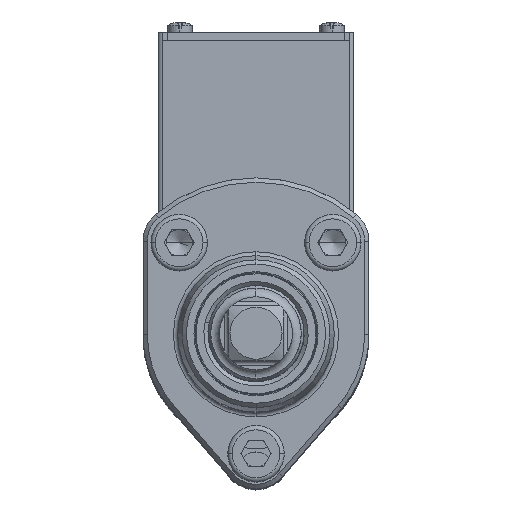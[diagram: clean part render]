
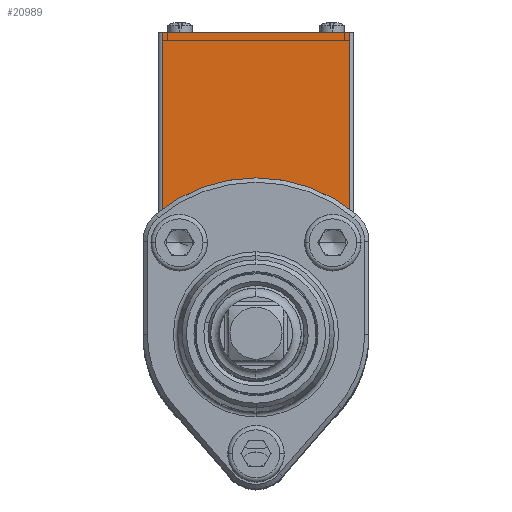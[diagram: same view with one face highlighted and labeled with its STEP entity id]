
A CAD part, top view. The second image highlights one B-rep face of the part: STEP entity #20989.
In plain terms, the highlighted planar face has unit normal (0, 0, 1).
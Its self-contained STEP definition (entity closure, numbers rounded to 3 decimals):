
#9 = CARTESIAN_POINT ( 'NONE',  ( -21.5, 69.925, -224. ) ) ;
#17 = CARTESIAN_POINT ( 'NONE',  ( -7., 32.5, -224. ) ) ;
#125 = EDGE_CURVE ( 'NONE', #10570, #17312, #18597, .T. ) ;
#167 = EDGE_CURVE ( 'NONE', #10570, #15472, #10169, .T. ) ;
#421 = DIRECTION ( 'NONE',  ( 1., 0., 0. ) ) ;
#559 = CARTESIAN_POINT ( 'NONE',  ( -5.1, 29.5, -224. ) ) ;
#592 = VERTEX_POINT ( 'NONE', #8532 ) ;
#607 = CARTESIAN_POINT ( 'NONE',  ( -5.1, 28.117, -224. ) ) ;
#619 = AXIS2_PLACEMENT_3D ( 'NONE', #11779, #17032, #8211 ) ;
#721 = EDGE_CURVE ( 'NONE', #18760, #15711, #5756, .T. ) ;
#1190 = ORIENTED_EDGE ( 'NONE', *, *, #721, .F. ) ;
#1233 = DIRECTION ( 'NONE',  ( 1., 0., 0. ) ) ;
#1632 = VERTEX_POINT ( 'NONE', #4447 ) ;
#1818 = AXIS2_PLACEMENT_3D ( 'NONE', #3451, #13768, #17451 ) ;
#2131 = EDGE_CURVE ( 'NONE', #20754, #11306, #5649, .T. ) ;
#2314 = DIRECTION ( 'NONE',  ( 0., 0., 1. ) ) ;
#2705 = CIRCLE ( 'NONE', #21369, 5.1 ) ;
#2773 = AXIS2_PLACEMENT_3D ( 'NONE', #7411, #19334, #10834 ) ;
#2848 = EDGE_CURVE ( 'NONE', #592, #1632, #16123, .T. ) ;
#2895 = CARTESIAN_POINT ( 'NONE',  ( 5.1, 24.5, -224. ) ) ;
#3080 = CARTESIAN_POINT ( 'NONE',  ( 21.5, 69.925, -224. ) ) ;
#3222 = ORIENTED_EDGE ( 'NONE', *, *, #18823, .F. ) ;
#3451 = CARTESIAN_POINT ( 'NONE',  ( 7., 32.5, -224. ) ) ;
#3537 = CARTESIAN_POINT ( 'NONE',  ( -6.61, 26.178, -224. ) ) ;
#3779 = AXIS2_PLACEMENT_3D ( 'NONE', #9194, #2314, #19481 ) ;
#3906 = DIRECTION ( 'NONE',  ( 0., -1., 0. ) ) ;
#4447 = CARTESIAN_POINT ( 'NONE',  ( -5.3, 32.5, -224. ) ) ;
#4769 = PLANE ( 'NONE',  #619 ) ;
#5175 = ORIENTED_EDGE ( 'NONE', *, *, #21923, .F. ) ;
#5286 = DIRECTION ( 'NONE',  ( 0., 0., 1. ) ) ;
#5288 = CARTESIAN_POINT ( 'NONE',  ( -7.1, 28.117, -224. ) ) ;
#5324 = ORIENTED_EDGE ( 'NONE', *, *, #13612, .T. ) ;
#5649 = LINE ( 'NONE', #10590, #19371 ) ;
#5756 = LINE ( 'NONE', #19615, #11250 ) ;
#5986 = DIRECTION ( 'NONE',  ( 0., 1., 0. ) ) ;
#6252 = AXIS2_PLACEMENT_3D ( 'NONE', #15784, #7087, #10515 ) ;
#6554 = CIRCLE ( 'NONE', #1818, 1.7 ) ;
#6680 = CARTESIAN_POINT ( 'NONE',  ( 7.1, 28.117, -224. ) ) ;
#7087 = DIRECTION ( 'NONE',  ( 0., 0., 1. ) ) ;
#7411 = CARTESIAN_POINT ( 'NONE',  ( 0., 0., -224. ) ) ;
#7542 = CIRCLE ( 'NONE', #2773, 27. ) ;
#7776 = CARTESIAN_POINT ( 'NONE',  ( -21.5, 16.332, -224. ) ) ;
#7976 = VECTOR ( 'NONE', #5986, 1000. ) ;
#8091 = CARTESIAN_POINT ( 'NONE',  ( 0., 29.5, -224. ) ) ;
#8211 = DIRECTION ( 'NONE',  ( -1., 0., 0. ) ) ;
#8532 = CARTESIAN_POINT ( 'NONE',  ( -8.7, 32.5, -224. ) ) ;
#8795 = ORIENTED_EDGE ( 'NONE', *, *, #167, .T. ) ;
#9194 = CARTESIAN_POINT ( 'NONE',  ( 7., 32.5, -224. ) ) ;
#9350 = EDGE_CURVE ( 'NONE', #1632, #592, #12531, .T. ) ;
#9538 = ORIENTED_EDGE ( 'NONE', *, *, #9350, .F. ) ;
#9631 = EDGE_LOOP ( 'NONE', ( #3222, #15595 ) ) ;
#9688 = ORIENTED_EDGE ( 'NONE', *, *, #2848, .F. ) ;
#10038 = FACE_BOUND ( 'NONE', #18904, .T. ) ;
#10169 = CIRCLE ( 'NONE', #13839, 2. ) ;
#10274 = ORIENTED_EDGE ( 'NONE', *, *, #2131, .F. ) ;
#10442 = ORIENTED_EDGE ( 'NONE', *, *, #20143, .F. ) ;
#10515 = DIRECTION ( 'NONE',  ( 1., 0., 0. ) ) ;
#10570 = VERTEX_POINT ( 'NONE', #15447 ) ;
#10590 = CARTESIAN_POINT ( 'NONE',  ( -22.5, 69.925, -224. ) ) ;
#10649 = LINE ( 'NONE', #17324, #17920 ) ;
#10652 = EDGE_CURVE ( 'NONE', #17312, #18760, #2705, .T. ) ;
#10659 = AXIS2_PLACEMENT_3D ( 'NONE', #17, #5286, #421 ) ;
#10834 = DIRECTION ( 'NONE',  ( 1., 0., 0. ) ) ;
#10984 = CARTESIAN_POINT ( 'NONE',  ( 6.61, 26.178, -224. ) ) ;
#11250 = VECTOR ( 'NONE', #16071, 1000. ) ;
#11306 = VERTEX_POINT ( 'NONE', #3080 ) ;
#11465 = CIRCLE ( 'NONE', #3779, 1.7 ) ;
#11779 = CARTESIAN_POINT ( 'NONE',  ( -22.5, 69.925, -224. ) ) ;
#11956 = DIRECTION ( 'NONE',  ( -1., 0., 0. ) ) ;
#12079 = DIRECTION ( 'NONE',  ( -1., 0., 0. ) ) ;
#12200 = ORIENTED_EDGE ( 'NONE', *, *, #125, .F. ) ;
#12255 = EDGE_LOOP ( 'NONE', ( #10274, #16574, #10442, #22366, #1190, #14198, #12200, #8795, #5175, #5324 ) ) ;
#12531 = CIRCLE ( 'NONE', #10659, 1.7 ) ;
#12568 = DIRECTION ( 'NONE',  ( 1., 0., 0. ) ) ;
#12979 = EDGE_CURVE ( 'NONE', #16390, #19249, #6554, .T. ) ;
#13214 = CARTESIAN_POINT ( 'NONE',  ( 21.5, 16.332, -224. ) ) ;
#13590 = DIRECTION ( 'NONE',  ( 1., 0., 0. ) ) ;
#13612 = EDGE_CURVE ( 'NONE', #22351, #11306, #10649, .T. ) ;
#13768 = DIRECTION ( 'NONE',  ( 0., 0., 1. ) ) ;
#13772 = VERTEX_POINT ( 'NONE', #3537 ) ;
#13839 = AXIS2_PLACEMENT_3D ( 'NONE', #6680, #18929, #11956 ) ;
#14198 = ORIENTED_EDGE ( 'NONE', *, *, #10652, .F. ) ;
#14887 = AXIS2_PLACEMENT_3D ( 'NONE', #22334, #16838, #1233 ) ;
#15400 = FACE_OUTER_BOUND ( 'NONE', #12255, .T. ) ;
#15447 = CARTESIAN_POINT ( 'NONE',  ( 5.1, 28.117, -224. ) ) ;
#15472 = VERTEX_POINT ( 'NONE', #10984 ) ;
#15595 = ORIENTED_EDGE ( 'NONE', *, *, #12979, .F. ) ;
#15631 = FACE_BOUND ( 'NONE', #9631, .T. ) ;
#15711 = VERTEX_POINT ( 'NONE', #607 ) ;
#15784 = CARTESIAN_POINT ( 'NONE',  ( -7., 32.5, -224. ) ) ;
#15906 = VERTEX_POINT ( 'NONE', #7776 ) ;
#15932 = CARTESIAN_POINT ( 'NONE',  ( -21.5, 69.925, -224. ) ) ;
#16071 = DIRECTION ( 'NONE',  ( 0., -1., 0. ) ) ;
#16123 = CIRCLE ( 'NONE', #6252, 1.7 ) ;
#16390 = VERTEX_POINT ( 'NONE', #16438 ) ;
#16438 = CARTESIAN_POINT ( 'NONE',  ( 5.3, 32.5, -224. ) ) ;
#16574 = ORIENTED_EDGE ( 'NONE', *, *, #22589, .T. ) ;
#16838 = DIRECTION ( 'NONE',  ( 0., 0., 1. ) ) ;
#16920 = DIRECTION ( 'NONE',  ( 0., 0., 1. ) ) ;
#16936 = CARTESIAN_POINT ( 'NONE',  ( 8.7, 32.5, -224. ) ) ;
#17032 = DIRECTION ( 'NONE',  ( 0., 0., -1. ) ) ;
#17312 = VERTEX_POINT ( 'NONE', #19710 ) ;
#17324 = CARTESIAN_POINT ( 'NONE',  ( 21.5, 69.925, -224. ) ) ;
#17451 = DIRECTION ( 'NONE',  ( 1., 0., 0. ) ) ;
#17674 = DIRECTION ( 'NONE',  ( 0., 1., 0. ) ) ;
#17920 = VECTOR ( 'NONE', #17674, 1000. ) ;
#18597 = LINE ( 'NONE', #2895, #7976 ) ;
#18692 = EDGE_CURVE ( 'NONE', #13772, #15711, #21733, .T. ) ;
#18760 = VERTEX_POINT ( 'NONE', #559 ) ;
#18823 = EDGE_CURVE ( 'NONE', #19249, #16390, #11465, .T. ) ;
#18904 = EDGE_LOOP ( 'NONE', ( #9538, #9688 ) ) ;
#18929 = DIRECTION ( 'NONE',  ( 0., 0., 1. ) ) ;
#18996 = VECTOR ( 'NONE', #3906, 1000. ) ;
#19041 = DIRECTION ( 'NONE',  ( 0., 0., 1. ) ) ;
#19249 = VERTEX_POINT ( 'NONE', #16936 ) ;
#19334 = DIRECTION ( 'NONE',  ( 0., 0., 1. ) ) ;
#19371 = VECTOR ( 'NONE', #12568, 1000. ) ;
#19481 = DIRECTION ( 'NONE',  ( 1., 0., 0. ) ) ;
#19615 = CARTESIAN_POINT ( 'NONE',  ( -5.1, 24.5, -224. ) ) ;
#19710 = CARTESIAN_POINT ( 'NONE',  ( 5.1, 29.5, -224. ) ) ;
#20143 = EDGE_CURVE ( 'NONE', #13772, #15906, #7542, .T. ) ;
#20754 = VERTEX_POINT ( 'NONE', #15932 ) ;
#20980 = LINE ( 'NONE', #9, #18996 ) ;
#20989 = ADVANCED_FACE ( 'NONE', ( #15400, #15631, #10038 ), #4769, .F. ) ;
#21369 = AXIS2_PLACEMENT_3D ( 'NONE', #8091, #16920, #13590 ) ;
#21733 = CIRCLE ( 'NONE', #22103, 2. ) ;
#21923 = EDGE_CURVE ( 'NONE', #22351, #15472, #22610, .T. ) ;
#22103 = AXIS2_PLACEMENT_3D ( 'NONE', #5288, #19041, #12079 ) ;
#22334 = CARTESIAN_POINT ( 'NONE',  ( 0., 0., -224. ) ) ;
#22351 = VERTEX_POINT ( 'NONE', #13214 ) ;
#22366 = ORIENTED_EDGE ( 'NONE', *, *, #18692, .T. ) ;
#22589 = EDGE_CURVE ( 'NONE', #20754, #15906, #20980, .T. ) ;
#22610 = CIRCLE ( 'NONE', #14887, 27. ) ;
